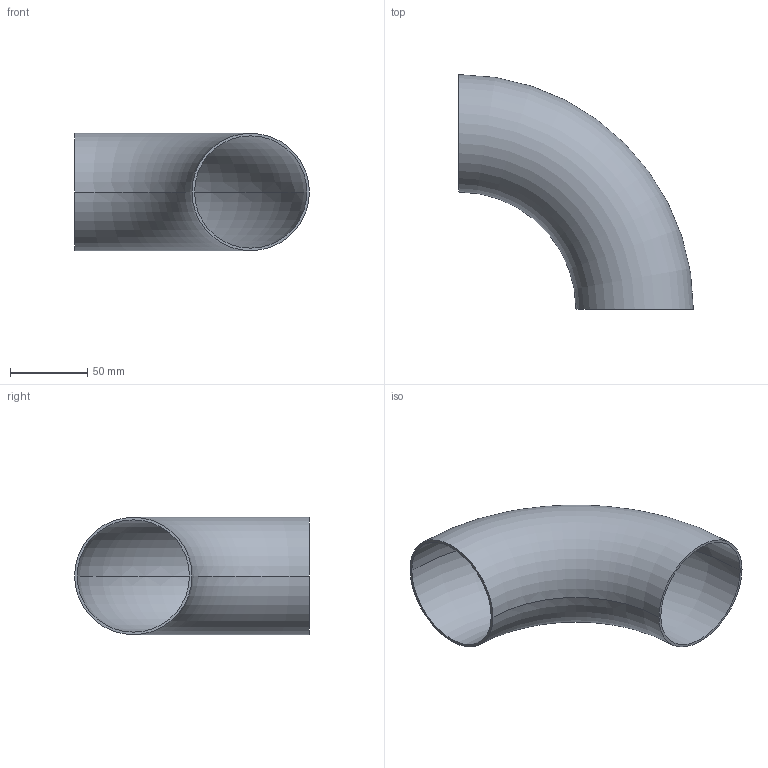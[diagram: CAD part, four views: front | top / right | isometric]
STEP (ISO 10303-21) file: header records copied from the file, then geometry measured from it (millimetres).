
FILE_DESCRIPTION (( 'STEP AP203' ), '1' );
FILE_NAME ('2WCL3.0.STEP', '2018-04-30T15:22:37', ( 'vneprd' ), ( 'Microsoft' ), 'SwSTEP 2.0', 'SolidWorks 2014', '' );
FILE_SCHEMA (( 'CONFIG_CONTROL_DESIGN' ));
Length unit declared in the file: inch
Products named in the file (1): 2WCL3.0
Bounding box: 152.4 x 152.4 x 76.2 mm (x, y, z)
Volume: 69423.2 mm3; surface area: 84871.7 mm2
Topology: 1 solids, 1 shells, 6 faces, 12 edges, 8 vertices
Faces by surface type: torus 4, plane 2
Entity records: 251 total; most frequent: DIRECTION 38, CARTESIAN_POINT 27, ORIENTED_EDGE 24, AXIS2_PLACEMENT_3D 19, CIRCLE 12, EDGE_CURVE 12, VERTEX_POINT 8, EDGE_LOOP 8
